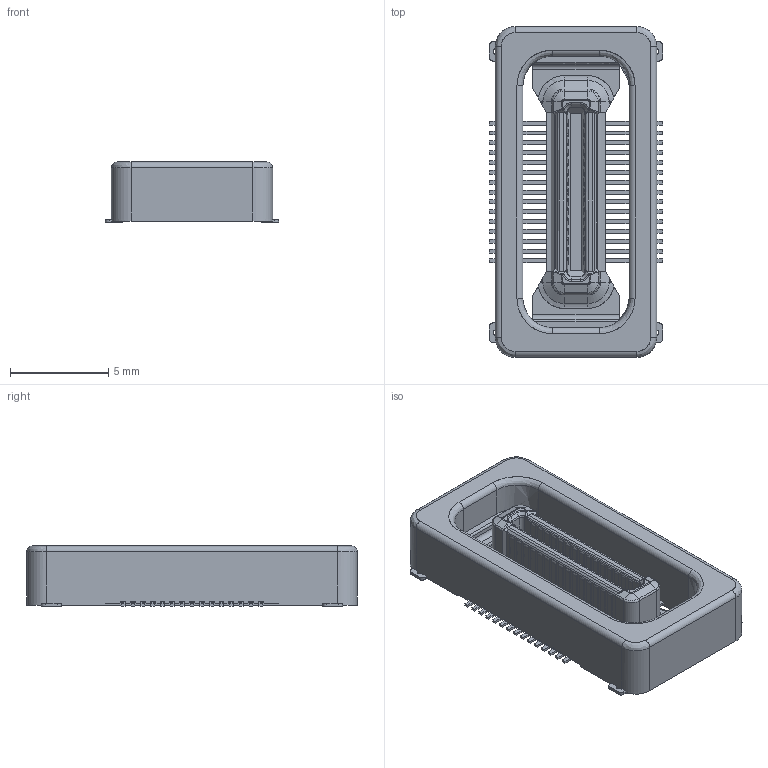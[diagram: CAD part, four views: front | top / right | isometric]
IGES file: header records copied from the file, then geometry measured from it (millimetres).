
Start section: SolidWorks IGES file using analytic representation for surfaces
Global section: file name: Q:\Kamikawa_Hisako\190710\MK_X4_5655_XXX_XXX_829+T\14_5655_XX0_00X_829+T\14_5655_XX0_000_829+T\14_5655_030_000_829+T.IGS; native system: SolidWorks 2017; preprocessor: SolidWorks 2017; author: HISAKO.KAMIKAWA.FJ; date: 190711.102121; units: millimetre
Bounding box: 8.8 x 16.8 x 3.05 mm (x, y, z)
Surface area: 611.2 mm2 (no closed solid volume)
Topology: 0 solids, 0 shells, 1357 faces, 8346 edges, 8346 vertices
Faces by surface type: bspline 971, revolution 386
